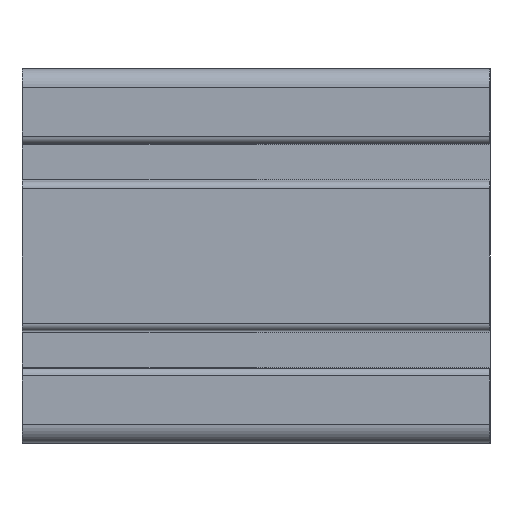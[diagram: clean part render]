
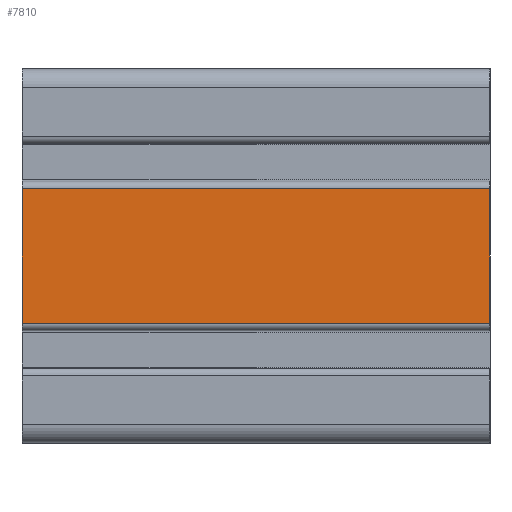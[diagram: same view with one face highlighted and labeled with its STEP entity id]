
A CAD part, left-side view. The second image highlights one B-rep face of the part: STEP entity #7810.
In plain terms, the highlighted planar face has unit normal (-1, 0, 0).
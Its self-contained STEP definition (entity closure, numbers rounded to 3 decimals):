
#898 = DIRECTION ( 'NONE',  ( 0., -1., 0. ) ) ;
#1057 = EDGE_CURVE ( 'NONE', #7694, #6109, #9256, .T. ) ;
#1177 = DIRECTION ( 'NONE',  ( 1., 0., 0. ) ) ;
#2266 = DIRECTION ( 'NONE',  ( 0., -1., 0. ) ) ;
#2361 = VECTOR ( 'NONE', #2708, 1000. ) ;
#2708 = DIRECTION ( 'NONE',  ( 0., 0., 1. ) ) ;
#2865 = CARTESIAN_POINT ( 'NONE',  ( -60., 50., 14.37 ) ) ;
#2972 = AXIS2_PLACEMENT_3D ( 'NONE', #8120, #1177, #13524 ) ;
#3074 = VECTOR ( 'NONE', #11254, 1000. ) ;
#3554 = EDGE_LOOP ( 'NONE', ( #7280, #12325, #12362, #14528 ) ) ;
#5001 = LINE ( 'NONE', #12837, #2361 ) ;
#5733 = VERTEX_POINT ( 'NONE', #14119 ) ;
#6109 = VERTEX_POINT ( 'NONE', #2865 ) ;
#6747 = CARTESIAN_POINT ( 'NONE',  ( -60., 50., -14.37 ) ) ;
#6866 = PLANE ( 'NONE',  #2972 ) ;
#7280 = ORIENTED_EDGE ( 'NONE', *, *, #12375, .T. ) ;
#7694 = VERTEX_POINT ( 'NONE', #10939 ) ;
#7810 = ADVANCED_FACE ( 'NONE', ( #13667 ), #6866, .F. ) ;
#7892 = LINE ( 'NONE', #12404, #9678 ) ;
#8120 = CARTESIAN_POINT ( 'NONE',  ( -60., 50., -14.37 ) ) ;
#9256 = LINE ( 'NONE', #6747, #3074 ) ;
#9678 = VECTOR ( 'NONE', #2266, 1000. ) ;
#9896 = VECTOR ( 'NONE', #898, 1000. ) ;
#10364 = VERTEX_POINT ( 'NONE', #14515 ) ;
#10875 = LINE ( 'NONE', #13174, #9896 ) ;
#10939 = CARTESIAN_POINT ( 'NONE',  ( -60., 50., -14.37 ) ) ;
#11254 = DIRECTION ( 'NONE',  ( 0., 0., 1. ) ) ;
#11716 = EDGE_CURVE ( 'NONE', #6109, #5733, #10875, .T. ) ;
#12324 = EDGE_CURVE ( 'NONE', #7694, #10364, #7892, .T. ) ;
#12325 = ORIENTED_EDGE ( 'NONE', *, *, #11716, .F. ) ;
#12362 = ORIENTED_EDGE ( 'NONE', *, *, #1057, .F. ) ;
#12375 = EDGE_CURVE ( 'NONE', #10364, #5733, #5001, .T. ) ;
#12404 = CARTESIAN_POINT ( 'NONE',  ( -60., 50., -14.37 ) ) ;
#12837 = CARTESIAN_POINT ( 'NONE',  ( -60., -50., -14.37 ) ) ;
#13174 = CARTESIAN_POINT ( 'NONE',  ( -60., 50., 14.37 ) ) ;
#13524 = DIRECTION ( 'NONE',  ( 0., 0., -1. ) ) ;
#13667 = FACE_OUTER_BOUND ( 'NONE', #3554, .T. ) ;
#14119 = CARTESIAN_POINT ( 'NONE',  ( -60., -50., 14.37 ) ) ;
#14515 = CARTESIAN_POINT ( 'NONE',  ( -60., -50., -14.37 ) ) ;
#14528 = ORIENTED_EDGE ( 'NONE', *, *, #12324, .T. ) ;
